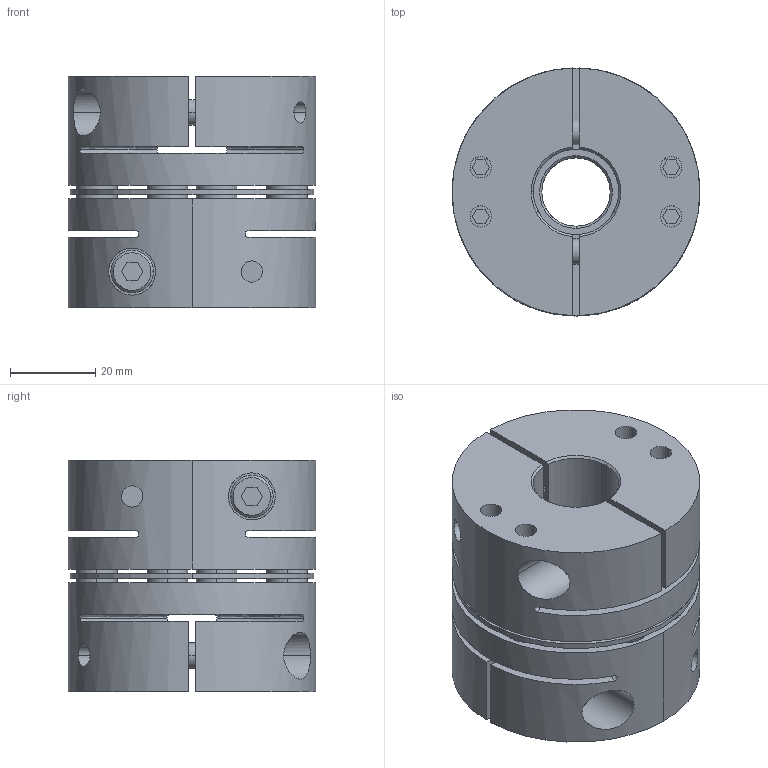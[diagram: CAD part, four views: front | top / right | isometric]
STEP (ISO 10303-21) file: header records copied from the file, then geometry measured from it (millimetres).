
FILE_DESCRIPTION((''),'2;1');
FILE_NAME('TAS-58C-16×20.stp','2022-11-14T22:02:41',(''),(''),'AutoCAD STEP 2000i','AutoCAD 2000i',', , ');
FILE_SCHEMA(('CONFIG_CONTROL_DESIGN'));
Length unit declared in the file: millimetre
Products named in the file (5): TAS-58C-12×12; 忣兜1; TA58C-12-2; CAP-M6×20; TA58C-12
Assembly tree (5 placements, depth 3):
  TAS-58C-12×12
    忣兜1
    TA58C-12-2
      CAP-M6×20
    TA58C-12
      CAP-M6×20
Bounding box: 58 x 58 x 54.25 mm (x, y, z)
Volume: 107775.7 mm3; surface area: 42380.4 mm2
Topology: 1 solids, 1 shells, 360 faces, 889 edges, 611 vertices
Faces by surface type: plane 160, cylinder 148, cone 36, bspline 16
Entity records: 12735 total; most frequent: CARTESIAN_POINT 3821, DIRECTION 1908, ORIENTED_EDGE 1720, EDGE_CURVE 860, AXIS2_PLACEMENT_3D 729, VERTEX_POINT 564, EDGE_LOOP 464, VECTOR 450
